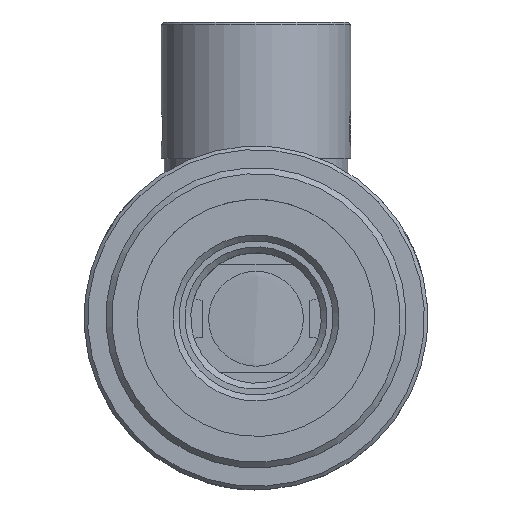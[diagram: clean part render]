
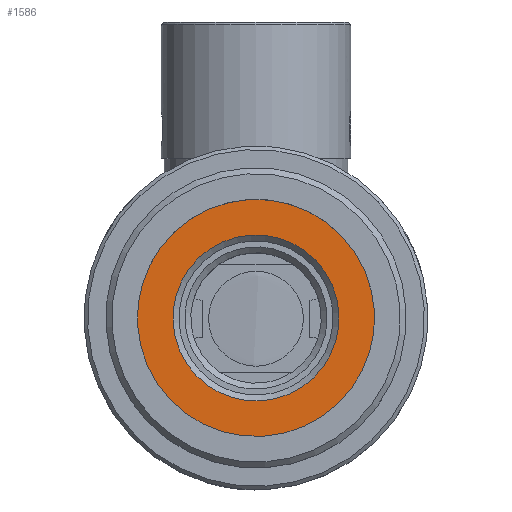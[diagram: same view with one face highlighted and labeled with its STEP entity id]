
A CAD part, top view. The second image highlights one B-rep face of the part: STEP entity #1586.
In plain terms, the highlighted planar face has unit normal (0, 0, 1).
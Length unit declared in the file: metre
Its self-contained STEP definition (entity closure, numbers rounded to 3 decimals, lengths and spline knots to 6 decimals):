
#1586=ADVANCED_FACE('NONE',(#4143,#4144),#4145,.F.);
#2998=EDGE_CURVE('NONE',#6228,#6228,#6229,.T.);
#3000=EDGE_CURVE('NONE',#6231,#6231,#6232,.T.);
#4143=FACE_OUTER_BOUND('',#7510,.T.);
#4144=FACE_BOUND('',#7511,.T.);
#4145=PLANE('',#7512);
#6228=VERTEX_POINT('',#11074);
#6229=CIRCLE('',#11075,0.01);
#6231=VERTEX_POINT('',#11078);
#6232=CIRCLE('',#11079,0.007);
#7510=EDGE_LOOP('',(#13740));
#7511=EDGE_LOOP('',(#13741));
#7512=AXIS2_PLACEMENT_3D('',#13742,#13743,#13744);
#11074=CARTESIAN_POINT('',(-0.012172,0.002736,0.05119));
#11075=AXIS2_PLACEMENT_3D('',#15963,#15964,#15965);
#11078=CARTESIAN_POINT('',(-0.009191,0.002399,0.05119));
#11079=AXIS2_PLACEMENT_3D('',#15966,#15967,#15968);
#13740=ORIENTED_EDGE('',*,*,#2998,.F.);
#13741=ORIENTED_EDGE('',*,*,#3000,.T.);
#13742=CARTESIAN_POINT('',(-0.001114,0.011551,0.05119));
#13743=DIRECTION('',(0.,0.0,-1.0));
#13744=DIRECTION('',(0.0,-1.0,0.0));
#15963=CARTESIAN_POINT('',(-0.002235,0.001614,0.05119));
#15964=DIRECTION('',(0.,0.,-1.0));
#15965=DIRECTION('',(-0.994,0.112,0.));
#15966=CARTESIAN_POINT('',(-0.002235,0.001614,0.05119));
#15967=DIRECTION('',(0.,0.,-1.0));
#15968=DIRECTION('',(-0.994,0.112,0.));
